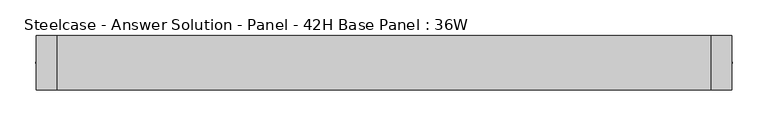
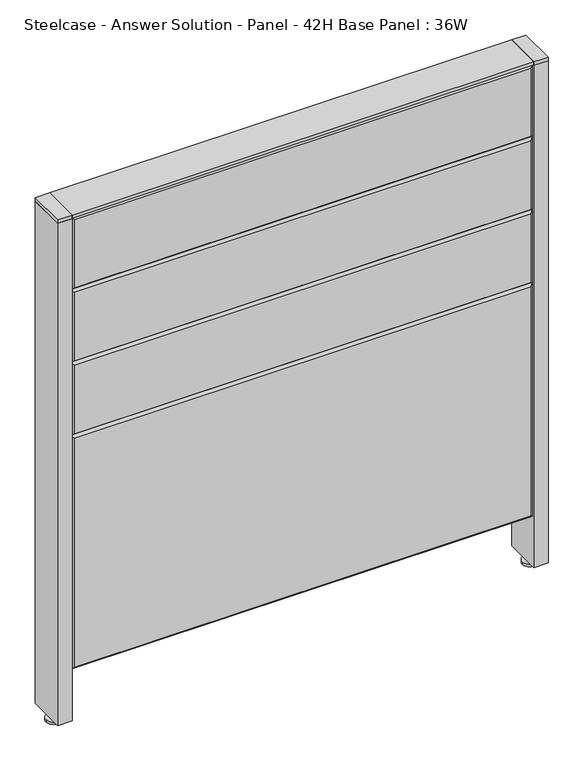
"""IFC4 building model written with IfcOpenShell, lengths in millimetres: furniture geometry, Steelcase - Answer Solution - Panel - 42H Base Panel : 36W."""

from ifc_helpers import new_model, si_unit, point, frame, frame_2d, origin, place, context, project, spatial, polyline, circle_curve, trimmed, segment, composite_curve, outline, extrude, faceted_brep, source, transform, mapped, element, save


def steelcase_answer_solution_panel_42h_base_panel_36w_57863c8c(model_context):
    return source(origin(), model_context, "Body", "SolidModel", [
        extrude(outline(composite_curve([segment(trimmed(circle_curve(frame_2d((471.424, 0.0039657)), 5.08), [point((476.504, 0.0039657))], [point((466.344, 0.0039657))], False, "CARTESIAN"), True, "CONTINUOUS"), segment(trimmed(circle_curve(frame_2d((471.424, 0.0039657)), 5.08), [point((466.344, 0.0039657))], [point((476.504, 0.0039657))], False, "CARTESIAN"), True, "CONTINUOUS")], self_intersect=False)), frame((0.0, 0.0, 5.0799671), z_axis=(0.0, 0.0, 1.0), x_axis=(1.0, 0.0, 0.0)), (0.0, 0.0, 1.0), 10.414),
        extrude(outline(composite_curve([segment(trimmed(circle_curve(frame_2d((471.424, 0.0039657)), 15.24), [point((486.664, 0.0039657))], [point((456.184, 0.0039657))], False, "CARTESIAN"), True, "CONTINUOUS"), segment(trimmed(circle_curve(frame_2d((471.424, 0.0039657)), 15.24), [point((456.184, 0.0039657))], [point((486.664, 0.0039657))], False, "CARTESIAN"), True, "CONTINUOUS")], self_intersect=False)), frame((0.0, 0.0, -3.29e-05), z_axis=(0.0, 0.0, 1.0), x_axis=(1.0, 0.0, 0.0)), (0.0, 0.0, 1.0), 5.08),
        extrude(outline(polyline([(485.775, 38.1039851), (485.775, -38.0960149), (457.2, -38.0960149), (457.2, 38.1039851), (485.775, 38.1039851)])), frame((0.0, 0.0, 1065.8348), z_axis=(0.0, 0.0, 1.0), x_axis=(1.0, 0.0, 0.0)), (0.0, 0.0, 1.0), 7.3151671),
        extrude(outline(polyline([(485.775, 38.1039851), (485.775, -38.0960149), (457.2, -38.0960149), (457.2, 38.1039851), (485.775, 38.1039851)])), frame((0.0, 0.0, 15.4939671), z_axis=(0.0, 0.0, 1.0), x_axis=(1.0, 0.0, 0.0)), (0.0, 0.0, 1.0), 1050.3408329),
        extrude(outline(composite_curve([segment(trimmed(circle_curve(frame_2d((-471.424, 0.0039657)), 5.08), [point((-476.504, 0.0039657))], [point((-466.344, 0.0039657))], False, "CARTESIAN"), True, "CONTINUOUS"), segment(trimmed(circle_curve(frame_2d((-471.424, 0.0039657)), 5.08), [point((-466.344, 0.0039657))], [point((-476.504, 0.0039657))], False, "CARTESIAN"), True, "CONTINUOUS")], self_intersect=False)), frame((0.0, 0.0, 5.0799671), z_axis=(0.0, 0.0, 1.0), x_axis=(1.0, 0.0, 0.0)), (0.0, 0.0, 1.0), 10.414),
        extrude(outline(composite_curve([segment(trimmed(circle_curve(frame_2d((-471.424, 0.0039657)), 15.24), [point((-486.664, 0.0039657))], [point((-456.184, 0.0039657))], False, "CARTESIAN"), True, "CONTINUOUS"), segment(trimmed(circle_curve(frame_2d((-471.424, 0.0039657)), 15.24), [point((-456.184, 0.0039657))], [point((-486.664, 0.0039657))], False, "CARTESIAN"), True, "CONTINUOUS")], self_intersect=False)), frame((0.0, 0.0, -3.29e-05), z_axis=(0.0, 0.0, 1.0), x_axis=(1.0, 0.0, 0.0)), (0.0, 0.0, 1.0), 5.08),
        extrude(outline(polyline([(-485.775, 38.1039851), (-457.2, 38.1039851), (-457.2, -38.0960149), (-485.775, -38.0960149), (-485.775, 38.1039851)])), frame((0.0, 0.0, 1065.8348), z_axis=(0.0, 0.0, 1.0), x_axis=(1.0, 0.0, 0.0)), (0.0, 0.0, 1.0), 7.3151671),
        extrude(outline(polyline([(-485.775, 38.1039851), (-457.2, 38.1039851), (-457.2, -38.0960149), (-485.775, -38.0960149), (-485.775, 38.1039851)])), frame((0.0, 0.0, 15.4939671), z_axis=(0.0, 0.0, 1.0), x_axis=(1.0, 0.0, 0.0)), (0.0, 0.0, 1.0), 1050.3408329),
        faceted_brep([(-452.374, 38.1635011, 1061.974), (452.374, 38.1635011, 1061.974), (452.374, 38.1635011, 919.226), (-452.374, 38.1635011, 919.226), (-457.2, 33.3375011, 1066.8), (-457.2, 33.3375011, 914.4), (457.2, 33.3375011, 914.4), (457.2, 33.3375011, 1066.8)], [[[0, 1, 2, 3]], [[4, 5, 6, 7]], [[4, 7, 1, 0]], [[7, 6, 2, 1]], [[6, 5, 3, 2]], [[5, 4, 0, 3]]]),
        faceted_brep([(-452.374, 38.1635011, 909.574), (452.374, 38.1635011, 909.574), (452.374, 38.1635011, 766.826), (-452.374, 38.1635011, 766.826), (-457.2, 33.3375011, 914.4), (-457.2, 33.3375011, 762.0), (457.2, 33.3375011, 762.0), (457.2, 33.3375011, 914.4)], [[[0, 1, 2, 3]], [[4, 5, 6, 7]], [[4, 7, 1, 0]], [[7, 6, 2, 1]], [[6, 5, 3, 2]], [[5, 4, 0, 3]]]),
        faceted_brep([(-452.374, 38.1635011, 757.174), (452.374, 38.1635011, 757.174), (452.374, 38.1635011, 614.426), (-452.374, 38.1635011, 614.426), (-457.2, 33.3375011, 762.0), (-457.2, 33.3375011, 609.6), (457.2, 33.3375011, 609.6), (457.2, 33.3375011, 762.0)], [[[0, 1, 2, 3]], [[4, 5, 6, 7]], [[4, 7, 1, 0]], [[7, 6, 2, 1]], [[6, 5, 3, 2]], [[5, 4, 0, 3]]]),
        faceted_brep([(-452.374, 38.1635011, 604.774), (452.374, 38.1635011, 604.774), (452.374, 38.1635011, 125.476), (-452.374, 38.1635011, 125.476), (-457.2, 33.3375011, 609.6), (-457.2, 33.3375011, 120.65), (457.2, 33.3375011, 120.65), (457.2, 33.3375011, 609.6)], [[[0, 1, 2, 3]], [[4, 5, 6, 7]], [[4, 7, 1, 0]], [[7, 6, 2, 1]], [[6, 5, 3, 2]], [[5, 4, 0, 3]]]),
        faceted_brep([(452.374, -38.1635011, 1061.974), (-452.374, -38.1635011, 1061.974), (-452.374, -38.1635011, 919.226), (452.374, -38.1635011, 919.226), (457.2, -33.3375011, 1066.8), (457.2, -33.3375011, 914.4), (-457.2, -33.3375011, 914.4), (-457.2, -33.3375011, 1066.8)], [[[0, 1, 2, 3]], [[4, 5, 6, 7]], [[4, 7, 1, 0]], [[7, 6, 2, 1]], [[6, 5, 3, 2]], [[5, 4, 0, 3]]]),
        faceted_brep([(452.374, -38.1635011, 909.574), (-452.374, -38.1635011, 909.574), (-452.374, -38.1635011, 766.826), (452.374, -38.1635011, 766.826), (457.2, -33.3375011, 914.4), (457.2, -33.3375011, 762.0), (-457.2, -33.3375011, 762.0), (-457.2, -33.3375011, 914.4)], [[[0, 1, 2, 3]], [[4, 5, 6, 7]], [[4, 7, 1, 0]], [[7, 6, 2, 1]], [[6, 5, 3, 2]], [[5, 4, 0, 3]]]),
        faceted_brep([(452.374, -38.1635011, 757.174), (-452.374, -38.1635011, 757.174), (-452.374, -38.1635011, 614.426), (452.374, -38.1635011, 614.426), (457.2, -33.3375011, 762.0), (457.2, -33.3375011, 609.6), (-457.2, -33.3375011, 609.6), (-457.2, -33.3375011, 762.0)], [[[0, 1, 2, 3]], [[4, 5, 6, 7]], [[4, 7, 1, 0]], [[7, 6, 2, 1]], [[6, 5, 3, 2]], [[5, 4, 0, 3]]]),
        faceted_brep([(452.374, -38.1635011, 604.774), (-452.374, -38.1635011, 604.774), (-452.374, -38.1635011, 125.476), (452.374, -38.1635011, 125.476), (457.2, -33.3375011, 609.6), (457.2, -33.3375011, 120.65), (-457.2, -33.3375011, 120.65), (-457.2, -33.3375011, 609.6)], [[[0, 1, 2, 3]], [[4, 5, 6, 7]], [[4, 7, 1, 0]], [[7, 6, 2, 1]], [[6, 5, 3, 2]], [[5, 4, 0, 3]]]),
        extrude(outline(polyline([(457.2, 38.1000194), (457.2, -38.1000194), (-457.2, -38.1000194), (-457.2, 38.1000194), (457.2, 38.1000194)])), frame((0.0, 0.0, 1066.8), z_axis=(0.0, 0.0, 1.0), x_axis=(1.0, 0.0, 0.0)), (0.0, 0.0, 1.0), 6.35),
    ])


if __name__ == "__main__":
    model = new_model("IFC4")
    model_context = context("Model", 3, world=origin())
    ifc_project = project(units=[si_unit("LENGTHUNIT", "METRE", prefix="MILLI")], contexts=[model_context])
    site = spatial("IfcSite", under=ifc_project)
    building = spatial("IfcBuilding", under=site)
    placement = place(None, origin())
    steelcase_answer_solution_panel_42h_base_panel_36w_shape = steelcase_answer_solution_panel_42h_base_panel_36w_57863c8c(model_context)
    element("IfcFurniture", 1, ObjectType="Steelcase - Answer Solution - Panel - 42H Base Panel : 36W", at=placement, inside=building, context=model_context, shape_type="MappedRepresentation", body=[
        mapped(steelcase_answer_solution_panel_42h_base_panel_36w_shape, transform((0.0, 0.0, 0.0), x_axis=(1.0, 0.0, 0.0), y_axis=(0.0, 1.0, 0.0), z_axis=(0.0, 0.0, 1.0))),
    ])
    save(model, "model.ifc")
